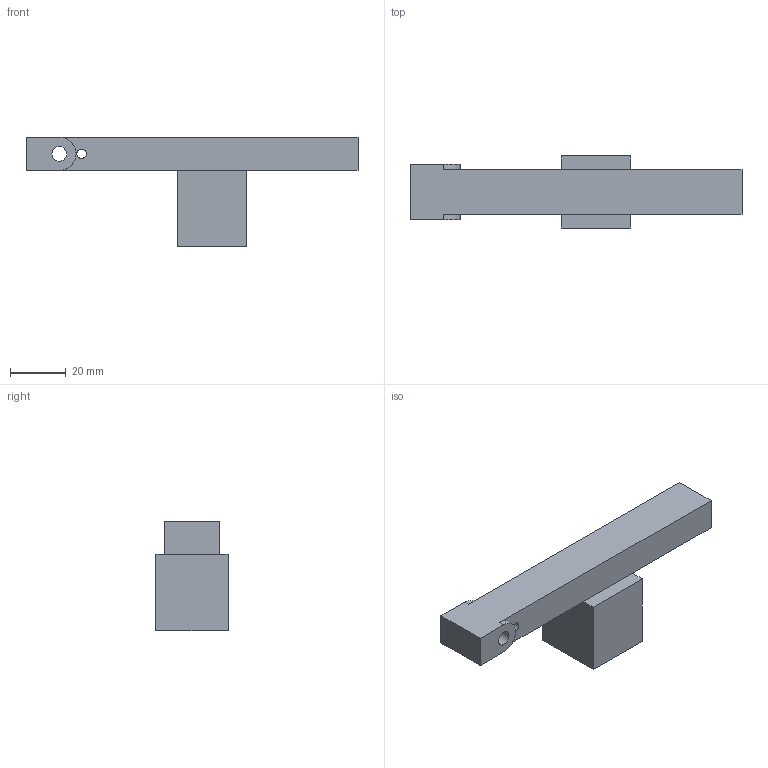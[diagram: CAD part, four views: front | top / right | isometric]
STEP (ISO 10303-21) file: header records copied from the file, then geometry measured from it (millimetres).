
FILE_DESCRIPTION(('Open CASCADE Model'),'2;1');
FILE_NAME('F09-ARM','2026-11-15T22:32:12',('Author'),('Open CASCADE'), 'Open CASCADE STEP processor 8.0','build123d','Unknown');
FILE_SCHEMA(('AUTOMOTIVE_DESIGN { 1 0 10303 214 1 1 1 1 }'));
Length unit declared in the file: millimetre
Products named in the file (1): F09-ARM
Bounding box: 119.5 x 26 x 39.5 mm (x, y, z)
Volume: 41034.7 mm3; surface area: 11042 mm2
Topology: 1 solids, 1 shells, 20 faces, 50 edges, 32 vertices
Faces by surface type: plane 16, cylinder 4
Full cylindrical faces by diameter (mm): 3.4 x1, 5.3 x1
Entity records: 1275 total; most frequent: CARTESIAN_POINT 249, DIRECTION 189, LINE 130, VECTOR 130, ORIENTED_EDGE 100, PCURVE 100, DEFINITIONAL_REPRESENTATION 100, EDGE_CURVE 50
